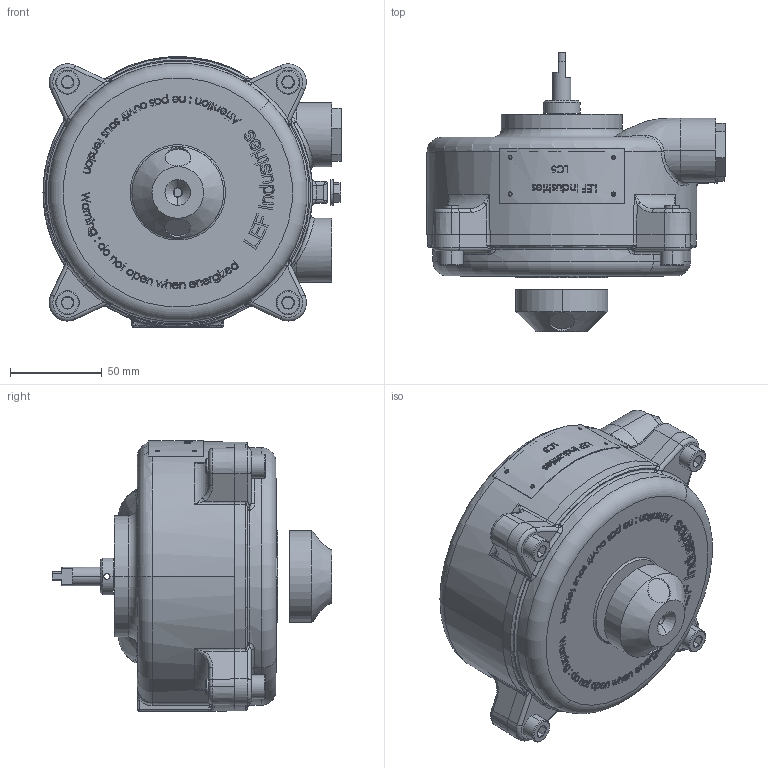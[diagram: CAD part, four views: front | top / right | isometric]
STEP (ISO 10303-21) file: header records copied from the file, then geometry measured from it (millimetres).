
FILE_DESCRIPTION (( 'STEP AP214' ), '1' );
FILE_NAME ('boitier LC5.STEP', '2020-04-15T08:46:53', ( '' ), ( '' ), 'SwSTEP 2.0', 'SolidWorks 2017', '' );
FILE_SCHEMA (( 'AUTOMOTIVE_DESIGN' ));
Length unit declared in the file: millimetre
Products named in the file (2): boitier LC5
Bounding box: 162.5 x 152.5 x 147.5 mm (x, y, z)
Surface area: 100853.1 mm2 (no closed solid volume)
Topology: 0 solids, 19 shells, 1098 faces, 4206 edges, 2950 vertices
Faces by surface type: plane 463, bspline 369, cylinder 153, cone 57, torus 50, sphere 6
Entity records: 85568 total; most frequent: CARTESIAN_POINT 43055, ORIENTED_EDGE 6452, DIRECTION 4657, EDGE_CURVE 4178, VERTEX_POINT 2950, VECTOR 2023, LINE 2023, B_SPLINE_CURVE_WITH_KNOTS 1549
